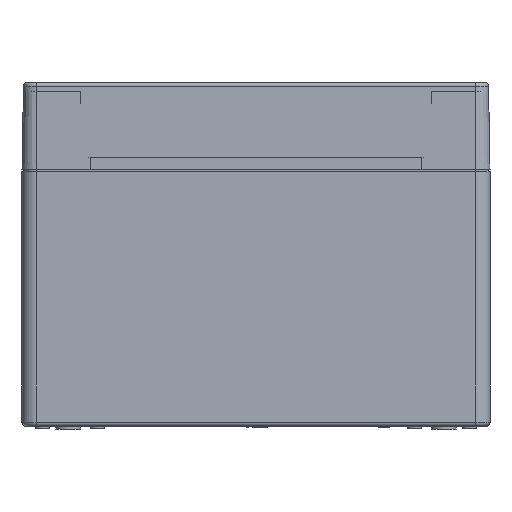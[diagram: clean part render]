
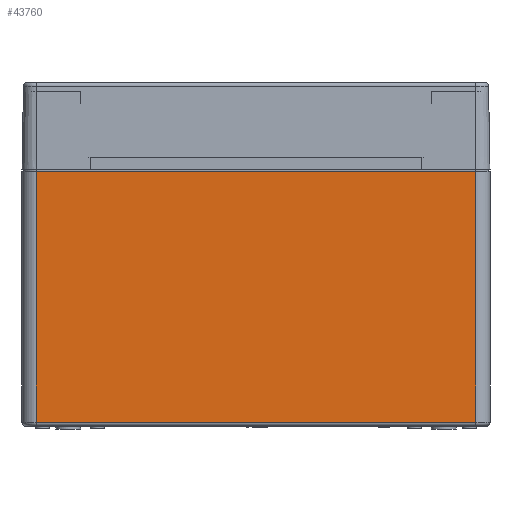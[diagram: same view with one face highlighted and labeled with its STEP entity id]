
A CAD part, front view. The second image highlights one B-rep face of the part: STEP entity #43760.
In plain terms, the highlighted planar face has unit normal (0, -1, 0).
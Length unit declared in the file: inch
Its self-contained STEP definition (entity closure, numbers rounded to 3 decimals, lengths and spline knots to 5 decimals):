
#976 = CARTESIAN_POINT ( 'NONE',  ( 2.99213, -4.96063, 0. ) ) ;
#1901 = ORIENTED_EDGE ( 'NONE', *, *, #63933, .F. ) ;
#2387 = VERTEX_POINT ( 'NONE', #36657 ) ;
#4124 = LINE ( 'NONE', #59493, #17031 ) ;
#7856 = DIRECTION ( 'NONE',  ( 0., 0., -1. ) ) ;
#12515 = VERTEX_POINT ( 'NONE', #13682 ) ;
#13682 = CARTESIAN_POINT ( 'NONE',  ( -2.99213, -4.96063, -3.48425 ) ) ;
#16015 = DIRECTION ( 'NONE',  ( -1., 0., 0. ) ) ;
#16362 = FACE_OUTER_BOUND ( 'NONE', #64114, .T. ) ;
#16422 = VECTOR ( 'NONE', #48818, 39.37008 ) ;
#17031 = VECTOR ( 'NONE', #51543, 39.37008 ) ;
#21334 = DIRECTION ( 'NONE',  ( 0., 1., 0. ) ) ;
#21780 = LINE ( 'NONE', #76698, #16422 ) ;
#22681 = CARTESIAN_POINT ( 'NONE',  ( 2.99213, -4.96063, -3.48425 ) ) ;
#29576 = LINE ( 'NONE', #68544, #65009 ) ;
#32217 = VECTOR ( 'NONE', #16015, 39.37008 ) ;
#35969 = EDGE_CURVE ( 'NONE', #60559, #12515, #36862, .T. ) ;
#36657 = CARTESIAN_POINT ( 'NONE',  ( -2.99213, -4.96063, -0.06693 ) ) ;
#36862 = LINE ( 'NONE', #22681, #32217 ) ;
#39130 = ORIENTED_EDGE ( 'NONE', *, *, #44263, .T. ) ;
#43400 = DIRECTION ( 'NONE',  ( 0., 0., 1. ) ) ;
#43760 = ADVANCED_FACE ( 'NONE', ( #16362 ), #81167, .F. ) ;
#43901 = VERTEX_POINT ( 'NONE', #44273 ) ;
#44263 = EDGE_CURVE ( 'NONE', #2387, #12515, #29576, .T. ) ;
#44273 = CARTESIAN_POINT ( 'NONE',  ( 2.99213, -4.96063, -0.06693 ) ) ;
#48818 = DIRECTION ( 'NONE',  ( 1., 0., 0. ) ) ;
#51543 = DIRECTION ( 'NONE',  ( 0., 0., -1. ) ) ;
#54047 = ORIENTED_EDGE ( 'NONE', *, *, #79735, .F. ) ;
#55044 = AXIS2_PLACEMENT_3D ( 'NONE', #976, #21334, #43400 ) ;
#59493 = CARTESIAN_POINT ( 'NONE',  ( 2.99213, -4.96063, 0. ) ) ;
#60559 = VERTEX_POINT ( 'NONE', #76111 ) ;
#63752 = ORIENTED_EDGE ( 'NONE', *, *, #35969, .F. ) ;
#63933 = EDGE_CURVE ( 'NONE', #2387, #43901, #21780, .T. ) ;
#64114 = EDGE_LOOP ( 'NONE', ( #1901, #39130, #63752, #54047 ) ) ;
#65009 = VECTOR ( 'NONE', #7856, 39.37008 ) ;
#68544 = CARTESIAN_POINT ( 'NONE',  ( -2.99213, -4.96063, 0. ) ) ;
#76111 = CARTESIAN_POINT ( 'NONE',  ( 2.99213, -4.96063, -3.48425 ) ) ;
#76698 = CARTESIAN_POINT ( 'NONE',  ( 2.99213, -4.96063, -0.06693 ) ) ;
#79735 = EDGE_CURVE ( 'NONE', #43901, #60559, #4124, .T. ) ;
#81167 = PLANE ( 'NONE',  #55044 ) ;
